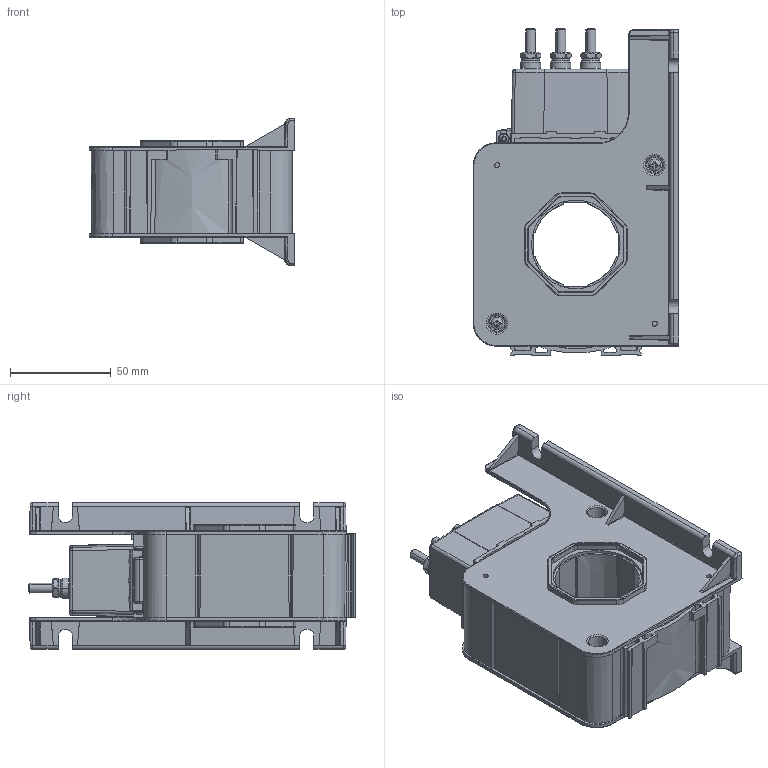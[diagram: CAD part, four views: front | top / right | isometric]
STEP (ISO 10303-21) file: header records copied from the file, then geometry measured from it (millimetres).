
FILE_DESCRIPTION(('CoCreate Modeling STEP Export'),'2;1');
FILE_NAME('LTC_1000_SF_SP4.stp','2009-10-09T 9:31:35',(''),(''),'CoCreate Modeling STEP processor for AP214 (Solid Model)','CoCreate Modeling 16.00A 16-Aug-2008 (C) Parametric Technology GmbH','');
FILE_SCHEMA(('AUTOMOTIVE_DESIGN { 1 0 10303 214 1 1 1 1 }'));
Length unit declared in the file: millimetre
Products named in the file (2): Boitier_LTC_usine
Assembly tree (1 placements, depth 2):
  Boitier_LTC_usine
    Boitier_LTC_usine
Bounding box: 102.2 x 162.2 x 73 mm (x, y, z)
Surface area: 167843.2 mm2 (no closed solid volume)
Topology: 0 solids, 15 shells, 3866 faces, 10480 edges, 6758 vertices
Faces by surface type: plane 2136, cylinder 817, bspline 362, cone 230, extrusion 195, torus 126
Entity records: 163469 total; most frequent: CARTESIAN_POINT 73574, ORIENTED_EDGE 20968, DIRECTION 15257, EDGE_CURVE 10474, VECTOR 6781, VERTEX_POINT 6758, LINE 6584, AXIS2_PLACEMENT_3D 4238
